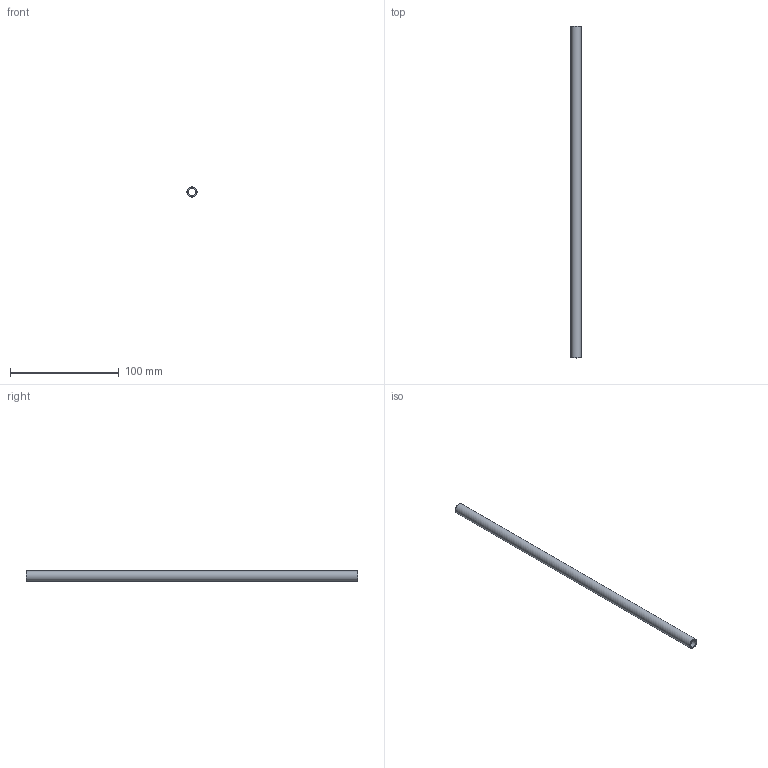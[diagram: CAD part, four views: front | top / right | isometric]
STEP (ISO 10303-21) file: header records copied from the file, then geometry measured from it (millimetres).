
FILE_DESCRIPTION(/* description */ (''),/* implementation_level */ '2;1');
FILE_NAME(/* name */ 'C:/Users/drich/Desktop/375T-12 v1.step',/* time_stamp */ '2019-12-27T17:31:25-06:00',/* author */ (''),/* organization */ (''),/* preprocessor_version */ 'ST-DEVELOPER v18',/* originating_system */ 'Autodesk Translation Framework v8.12.0.6',/* authorisation */ '');
FILE_SCHEMA (('AUTOMOTIVE_DESIGN { 1 0 10303 214 3 1 1 }'));
Length unit declared in the file: inch
Products named in the file (1): 375T-12
Bounding box: 9.41 x 304.8 x 9.41 mm (x, y, z)
Volume: 9665.4 mm3; surface area: 15701.1 mm2
Topology: 1 solids, 1 shells, 6 faces, 14 edges, 10 vertices
Faces by surface type: cone 2, cylinder 2, plane 2
Full cylindrical faces by diameter (mm): 6.934 x1, 9.406 x1
Entity records: 230 total; most frequent: DIRECTION 38, CARTESIAN_POINT 31, ORIENTED_EDGE 28, AXIS2_PLACEMENT_3D 17, EDGE_CURVE 14, CIRCLE 10, VERTEX_POINT 10, EDGE_LOOP 8
